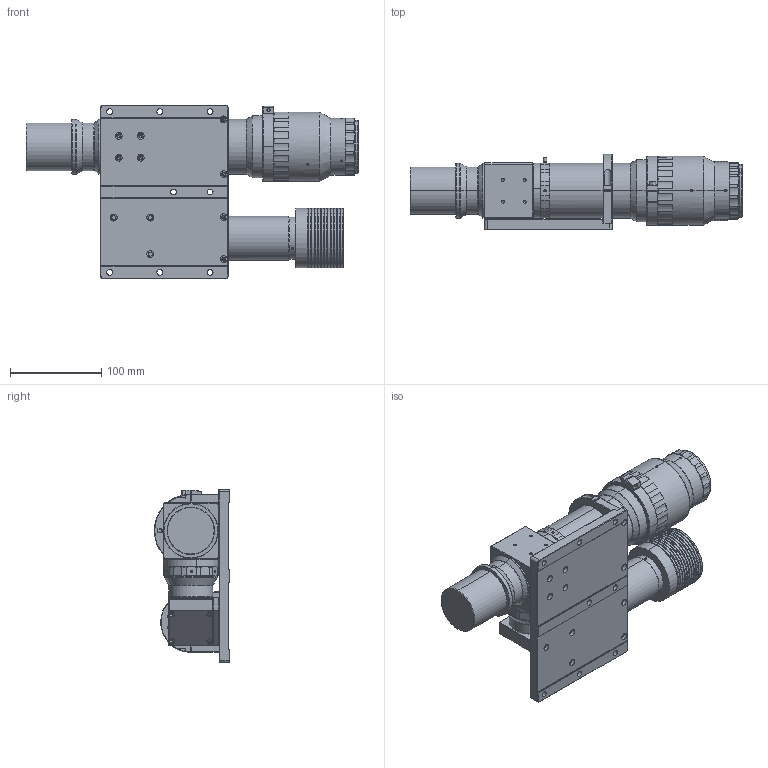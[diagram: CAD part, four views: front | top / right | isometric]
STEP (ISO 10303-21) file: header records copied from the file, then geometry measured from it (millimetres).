
FILE_DESCRIPTION (( 'STEP AP214' ), '1' );
FILE_NAME ('錨璃1^DTCA35F-14.6C-G-M58-AL-FL50-XX.STEP', '2025-03-28T08:36:03', ( 'jg' ), ( '' ), 'SwSTEP 2.0', 'SolidWorks 2017', '' );
FILE_SCHEMA (( 'AUTOMOTIVE_DESIGN' ));
Length unit declared in the file: millimetre
Products named in the file (1): 錨璃1^DTCA35F-14.6C-G-M58-AL-FL50-XX
Bounding box: 363.45 x 82.53 x 190 mm (x, y, z)
Volume: 2100590.8 mm3; surface area: 272243.1 mm2
Topology: 1 solids, 9 shells, 1452 faces, 3567 edges, 2186 vertices
Faces by surface type: cylinder 550, plane 468, cone 407, torus 22, bspline 3, sphere 2
Entity records: 45674 total; most frequent: CARTESIAN_POINT 10610, DIRECTION 7532, ORIENTED_EDGE 7042, EDGE_CURVE 3521, AXIS2_PLACEMENT_3D 3060, VERTEX_POINT 2186, EDGE_LOOP 1619, CIRCLE 1610
